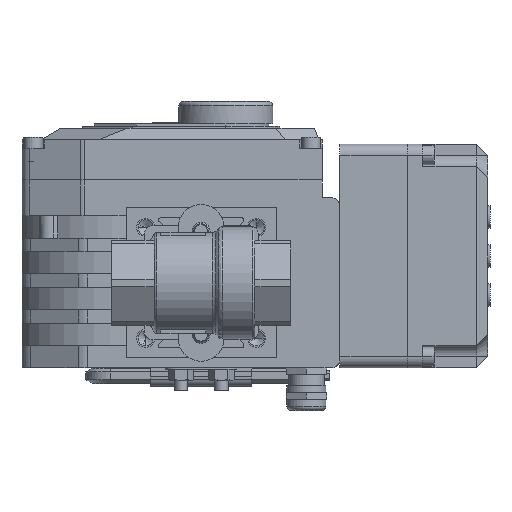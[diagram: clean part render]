
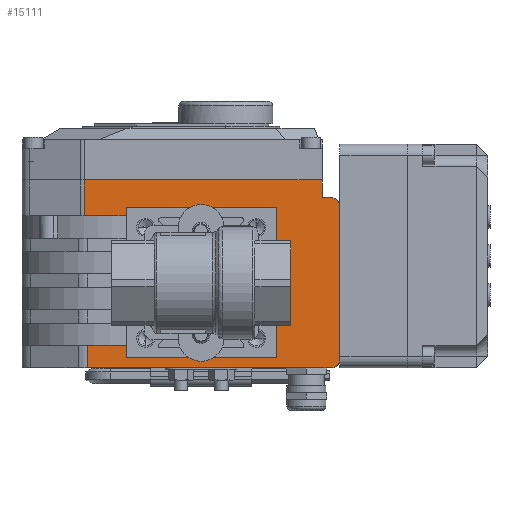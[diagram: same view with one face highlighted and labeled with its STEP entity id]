
A CAD part, front view. The second image highlights one B-rep face of the part: STEP entity #15111.
In plain terms, the highlighted planar face has unit normal (0, -1, 0).
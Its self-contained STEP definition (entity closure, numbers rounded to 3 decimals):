
#10084=DIRECTION('',(1.,0.,0.));
#10085=VECTOR('',#10084,108.749);
#10086=CARTESIAN_POINT('',(-47.,-36.5,0.));
#10087=LINE('',#10086,#10085);
#10511=DIRECTION('',(-1.,0.,0.));
#10512=VECTOR('',#10511,18.604);
#10513=CARTESIAN_POINT('',(63.104,-36.5,-68.));
#10514=LINE('',#10513,#10512);
#10771=DIRECTION('',(0.,0.,1.));
#10772=VECTOR('',#10771,16.);
#10773=CARTESIAN_POINT('',(63.104,-36.5,-84.));
#10774=LINE('',#10773,#10772);
#10775=DIRECTION('',(-1.,0.,0.));
#10776=VECTOR('',#10775,106.104);
#10777=CARTESIAN_POINT('',(63.104,-36.5,-84.));
#10778=LINE('',#10777,#10776);
#10779=CARTESIAN_POINT('',(-47.,-36.5,-72.));
#10780=DIRECTION('',(0.,-1.,0.));
#10781=DIRECTION('',(-1.,0.,0.));
#10782=AXIS2_PLACEMENT_3D('',#10779,#10780,#10781);
#10784=DIRECTION('',(0.,0.,-1.));
#10785=VECTOR('',#10784,68.);
#10786=CARTESIAN_POINT('',(-51.,-36.5,-4.));
#10787=LINE('',#10786,#10785);
#10788=CARTESIAN_POINT('',(-47.,-36.5,-4.));
#10789=DIRECTION('',(0.,-1.,0.));
#10790=DIRECTION('',(0.,0.,1.));
#10791=AXIS2_PLACEMENT_3D('',#10788,#10789,#10790);
#10793=DIRECTION('',(0.,0.,1.));
#10794=VECTOR('',#10793,10.);
#10795=CARTESIAN_POINT('',(61.749,-36.5,-10.));
#10796=LINE('',#10795,#10794);
#10797=DIRECTION('',(-1.,0.,0.));
#10798=VECTOR('',#10797,17.249);
#10799=CARTESIAN_POINT('',(61.749,-36.5,-10.));
#10800=LINE('',#10799,#10798);
#10801=DIRECTION('',(0.,0.,1.));
#10802=VECTOR('',#10801,5.5);
#10803=CARTESIAN_POINT('',(44.5,-36.5,-10.));
#10804=LINE('',#10803,#10802);
#10805=DIRECTION('',(-1.,0.,0.));
#10806=VECTOR('',#10805,67.);
#10807=CARTESIAN_POINT('',(44.5,-36.5,-4.5));
#10808=LINE('',#10807,#10806);
#10809=DIRECTION('',(0.,0.,-1.));
#10810=VECTOR('',#10809,67.);
#10811=CARTESIAN_POINT('',(-22.5,-36.5,-4.5));
#10812=LINE('',#10811,#10810);
#10813=DIRECTION('',(1.,0.,0.));
#10814=VECTOR('',#10813,67.);
#10815=CARTESIAN_POINT('',(-22.5,-36.5,-71.5));
#10816=LINE('',#10815,#10814);
#10817=DIRECTION('',(0.,0.,1.));
#10818=VECTOR('',#10817,3.5);
#10819=CARTESIAN_POINT('',(44.5,-36.5,-71.5));
#10820=LINE('',#10819,#10818);
#11110=DIRECTION('',(1.,0.,0.));
#11111=VECTOR('',#11110,4.);
#11112=CARTESIAN_POINT('',(-47.,-36.5,-76.));
#11113=LINE('',#11112,#11111);
#11146=DIRECTION('',(0.,0.,-1.));
#11147=VECTOR('',#11146,8.);
#11148=CARTESIAN_POINT('',(-43.,-36.5,-76.));
#11149=LINE('',#11148,#11147);
#13318=CARTESIAN_POINT('',(-43.,-36.5,-84.));
#13320=VERTEX_POINT('',#13318);
#13322=CARTESIAN_POINT('',(-43.,-36.5,-76.));
#13324=VERTEX_POINT('',#13322);
#13326=CARTESIAN_POINT('',(-47.,-36.5,0.));
#13327=CARTESIAN_POINT('',(-51.,-36.5,-4.));
#13328=VERTEX_POINT('',#13326);
#13329=VERTEX_POINT('',#13327);
#13338=CARTESIAN_POINT('',(-51.,-36.5,-72.));
#13339=CARTESIAN_POINT('',(-47.,-36.5,-76.));
#13340=VERTEX_POINT('',#13338);
#13341=VERTEX_POINT('',#13339);
#13370=CARTESIAN_POINT('',(61.749,-36.5,0.));
#13372=VERTEX_POINT('',#13370);
#13514=CARTESIAN_POINT('',(61.749,-36.5,-10.));
#13515=VERTEX_POINT('',#13514);
#13610=CARTESIAN_POINT('',(-22.5,-36.5,-4.5));
#13611=CARTESIAN_POINT('',(-22.5,-36.5,-71.5));
#13612=VERTEX_POINT('',#13610);
#13613=VERTEX_POINT('',#13611);
#13614=CARTESIAN_POINT('',(44.5,-36.5,-71.5));
#13615=VERTEX_POINT('',#13614);
#13616=CARTESIAN_POINT('',(44.5,-36.5,-68.));
#13617=VERTEX_POINT('',#13616);
#13630=CARTESIAN_POINT('',(44.5,-36.5,-10.));
#13631=CARTESIAN_POINT('',(44.5,-36.5,-4.5));
#13632=VERTEX_POINT('',#13630);
#13633=VERTEX_POINT('',#13631);
#14306=CARTESIAN_POINT('',(63.104,-36.5,-68.));
#14308=VERTEX_POINT('',#14306);
#14312=CARTESIAN_POINT('',(63.104,-36.5,-84.));
#14313=VERTEX_POINT('',#14312);
#15076=CARTESIAN_POINT('',(-51.,-36.5,0.));
#15077=DIRECTION('',(0.,-1.,0.));
#15078=DIRECTION('',(1.,0.,0.));
#15079=AXIS2_PLACEMENT_3D('',#15076,#15077,#15078);
#15080=PLANE('',#15079);
#15082=ORIENTED_EDGE('',*,*,#15081,.F.);
#15084=ORIENTED_EDGE('',*,*,#15083,.T.);
#15086=ORIENTED_EDGE('',*,*,#15085,.F.);
#15088=ORIENTED_EDGE('',*,*,#15087,.F.);
#15090=ORIENTED_EDGE('',*,*,#15089,.F.);
#15092=ORIENTED_EDGE('',*,*,#15091,.F.);
#15093=ORIENTED_EDGE('',*,*,#15021,.F.);
#15094=ORIENTED_EDGE('',*,*,#14333,.T.);
#15096=ORIENTED_EDGE('',*,*,#15095,.F.);
#15097=ORIENTED_EDGE('',*,*,#14475,.T.);
#15099=ORIENTED_EDGE('',*,*,#15098,.T.);
#15101=ORIENTED_EDGE('',*,*,#15100,.T.);
#15103=ORIENTED_EDGE('',*,*,#15102,.T.);
#15105=ORIENTED_EDGE('',*,*,#15104,.T.);
#15107=ORIENTED_EDGE('',*,*,#15106,.T.);
#15108=ORIENTED_EDGE('',*,*,#14737,.F.);
#15109=EDGE_LOOP('',(#15082,#15084,#15086,#15088,#15090,#15092,#15093,#15094,
#15096,#15097,#15099,#15101,#15103,#15105,#15107,#15108));
#15110=FACE_OUTER_BOUND('',#15109,.F.);
#15111=ADVANCED_FACE('',(#15110),#15080,.T.);
#10783=CIRCLE('',#10782,4.);
#10792=CIRCLE('',#10791,4.);
#14333=EDGE_CURVE('',#13328,#13372,#10087,.T.);
#14475=EDGE_CURVE('',#13515,#13632,#10800,.T.);
#14737=EDGE_CURVE('',#14308,#13617,#10514,.T.);
#15021=EDGE_CURVE('',#13328,#13329,#10792,.T.);
#15081=EDGE_CURVE('',#14313,#14308,#10774,.T.);
#15083=EDGE_CURVE('',#14313,#13320,#10778,.T.);
#15085=EDGE_CURVE('',#13324,#13320,#11149,.T.);
#15087=EDGE_CURVE('',#13341,#13324,#11113,.T.);
#15089=EDGE_CURVE('',#13340,#13341,#10783,.T.);
#15091=EDGE_CURVE('',#13329,#13340,#10787,.T.);
#15095=EDGE_CURVE('',#13515,#13372,#10796,.T.);
#15098=EDGE_CURVE('',#13632,#13633,#10804,.T.);
#15100=EDGE_CURVE('',#13633,#13612,#10808,.T.);
#15102=EDGE_CURVE('',#13612,#13613,#10812,.T.);
#15104=EDGE_CURVE('',#13613,#13615,#10816,.T.);
#15106=EDGE_CURVE('',#13615,#13617,#10820,.T.);
